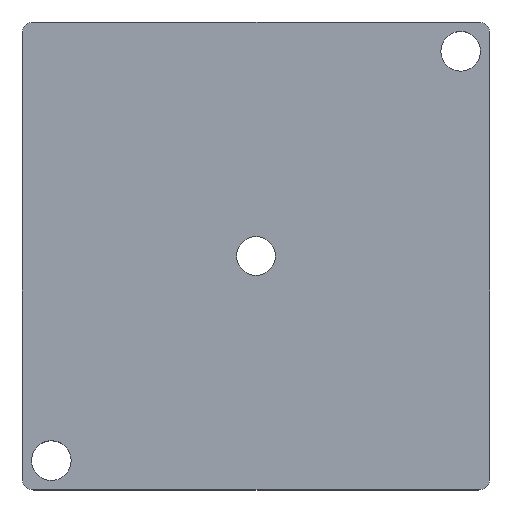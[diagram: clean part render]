
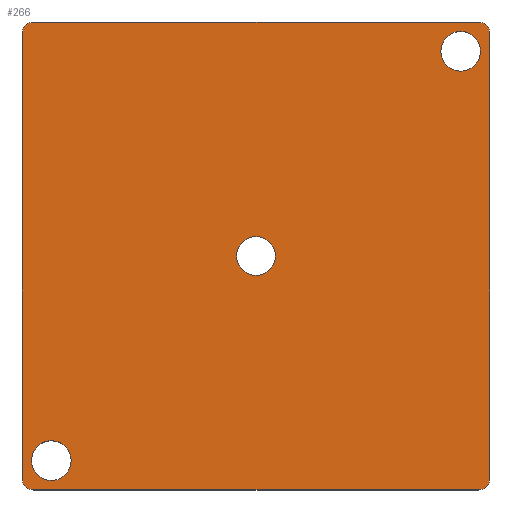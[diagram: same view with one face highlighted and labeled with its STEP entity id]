
A CAD part, top view. The second image highlights one B-rep face of the part: STEP entity #266.
In plain terms, the highlighted planar face has unit normal (0, 0, 1).
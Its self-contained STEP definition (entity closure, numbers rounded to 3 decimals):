
#18=FACE_BOUND('',#56,.T.);
#19=FACE_BOUND('',#57,.T.);
#20=FACE_BOUND('',#58,.T.);
#26=PLANE('',#316);
#39=FACE_OUTER_BOUND('',#55,.T.);
#55=EDGE_LOOP('',(#233,#234,#235,#236,#237,#238,#239,#240));
#56=EDGE_LOOP('',(#241,#242));
#57=EDGE_LOOP('',(#243,#244));
#58=EDGE_LOOP('',(#245,#246));
#65=LINE('',#430,#84);
#71=LINE('',#445,#90);
#76=LINE('',#469,#95);
#77=LINE('',#471,#96);
#84=VECTOR('',#347,10.);
#90=VECTOR('',#363,10.);
#95=VECTOR('',#392,10.);
#96=VECTOR('',#395,10.);
#97=CIRCLE('',#288,2.);
#105=CIRCLE('',#299,2.);
#106=CIRCLE('',#301,2.);
#107=CIRCLE('',#304,2.);
#108=CIRCLE('',#306,3.324);
#109=CIRCLE('',#307,3.324);
#110=CIRCLE('',#309,3.4);
#111=CIRCLE('',#310,3.4);
#112=CIRCLE('',#312,3.4);
#113=CIRCLE('',#313,3.4);
#114=VERTEX_POINT('',#400);
#115=VERTEX_POINT('',#401);
#127=VERTEX_POINT('',#429);
#128=VERTEX_POINT('',#433);
#129=VERTEX_POINT('',#437);
#130=VERTEX_POINT('',#438);
#131=VERTEX_POINT('',#443);
#132=VERTEX_POINT('',#447);
#133=VERTEX_POINT('',#451);
#134=VERTEX_POINT('',#452);
#135=VERTEX_POINT('',#457);
#136=VERTEX_POINT('',#458);
#137=VERTEX_POINT('',#463);
#138=VERTEX_POINT('',#464);
#139=EDGE_CURVE('',#114,#115,#97,.T.);
#153=EDGE_CURVE('',#115,#127,#65,.T.);
#155=EDGE_CURVE('',#127,#128,#105,.T.);
#157=EDGE_CURVE('',#129,#130,#106,.T.);
#161=EDGE_CURVE('',#131,#129,#71,.T.);
#162=EDGE_CURVE('',#132,#131,#107,.T.);
#164=EDGE_CURVE('',#133,#134,#108,.T.);
#165=EDGE_CURVE('',#134,#133,#109,.T.);
#167=EDGE_CURVE('',#135,#136,#110,.T.);
#168=EDGE_CURVE('',#136,#135,#111,.T.);
#170=EDGE_CURVE('',#137,#138,#112,.T.);
#171=EDGE_CURVE('',#138,#137,#113,.T.);
#173=EDGE_CURVE('',#130,#114,#76,.T.);
#174=EDGE_CURVE('',#128,#132,#77,.T.);
#233=ORIENTED_EDGE('',*,*,#139,.F.);
#234=ORIENTED_EDGE('',*,*,#173,.F.);
#235=ORIENTED_EDGE('',*,*,#157,.F.);
#236=ORIENTED_EDGE('',*,*,#161,.F.);
#237=ORIENTED_EDGE('',*,*,#162,.F.);
#238=ORIENTED_EDGE('',*,*,#174,.F.);
#239=ORIENTED_EDGE('',*,*,#155,.F.);
#240=ORIENTED_EDGE('',*,*,#153,.F.);
#241=ORIENTED_EDGE('',*,*,#164,.T.);
#242=ORIENTED_EDGE('',*,*,#165,.T.);
#243=ORIENTED_EDGE('',*,*,#167,.T.);
#244=ORIENTED_EDGE('',*,*,#168,.T.);
#245=ORIENTED_EDGE('',*,*,#170,.T.);
#246=ORIENTED_EDGE('',*,*,#171,.T.);
#266=ADVANCED_FACE('',(#39,#18,#19,#20),#26,.T.);
#288=AXIS2_PLACEMENT_3D('',#402,#321,#322);
#299=AXIS2_PLACEMENT_3D('',#434,#351,#352);
#301=AXIS2_PLACEMENT_3D('',#439,#356,#357);
#304=AXIS2_PLACEMENT_3D('',#448,#366,#367);
#306=AXIS2_PLACEMENT_3D('',#453,#371,#372);
#307=AXIS2_PLACEMENT_3D('',#454,#373,#374);
#309=AXIS2_PLACEMENT_3D('',#459,#378,#379);
#310=AXIS2_PLACEMENT_3D('',#460,#380,#381);
#312=AXIS2_PLACEMENT_3D('',#465,#385,#386);
#313=AXIS2_PLACEMENT_3D('',#466,#387,#388);
#316=AXIS2_PLACEMENT_3D('',#472,#396,#397);
#321=DIRECTION('center_axis',(0.,0.,-1.));
#322=DIRECTION('ref_axis',(-0.707,0.707,0.));
#347=DIRECTION('',(1.,0.,0.));
#351=DIRECTION('center_axis',(0.,0.,-1.));
#352=DIRECTION('ref_axis',(0.707,0.707,0.));
#356=DIRECTION('center_axis',(0.,0.,-1.));
#357=DIRECTION('ref_axis',(-0.707,-0.707,0.));
#363=DIRECTION('',(-1.,0.,0.));
#366=DIRECTION('center_axis',(0.,0.,-1.));
#367=DIRECTION('ref_axis',(0.707,-0.707,0.));
#371=DIRECTION('center_axis',(0.,0.,-1.));
#372=DIRECTION('ref_axis',(1.,0.,0.));
#373=DIRECTION('center_axis',(0.,0.,-1.));
#374=DIRECTION('ref_axis',(1.,0.,0.));
#378=DIRECTION('center_axis',(0.,0.,-1.));
#379=DIRECTION('ref_axis',(1.,0.,0.));
#380=DIRECTION('center_axis',(0.,0.,-1.));
#381=DIRECTION('ref_axis',(1.,0.,0.));
#385=DIRECTION('center_axis',(0.,0.,-1.));
#386=DIRECTION('ref_axis',(1.,0.,0.));
#387=DIRECTION('center_axis',(0.,0.,-1.));
#388=DIRECTION('ref_axis',(1.,0.,0.));
#392=DIRECTION('',(0.,1.,0.));
#395=DIRECTION('',(0.,-1.,0.));
#396=DIRECTION('center_axis',(0.,0.,1.));
#397=DIRECTION('ref_axis',(1.,0.,0.));
#400=CARTESIAN_POINT('',(-10.12,16.114,8.));
#401=CARTESIAN_POINT('',(-8.12,18.114,8.));
#402=CARTESIAN_POINT('Origin',(-8.12,16.114,8.));
#429=CARTESIAN_POINT('',(67.88,18.114,8.));
#430=CARTESIAN_POINT('',(69.88,18.114,8.));
#433=CARTESIAN_POINT('',(69.88,16.114,8.));
#434=CARTESIAN_POINT('Origin',(67.88,16.114,8.));
#437=CARTESIAN_POINT('',(-8.12,-61.886,8.));
#438=CARTESIAN_POINT('',(-10.12,-59.886,8.));
#439=CARTESIAN_POINT('Origin',(-8.12,-59.886,8.));
#443=CARTESIAN_POINT('',(67.88,-61.886,8.));
#445=CARTESIAN_POINT('',(-10.12,-61.886,8.));
#447=CARTESIAN_POINT('',(69.88,-59.886,8.));
#448=CARTESIAN_POINT('Origin',(67.88,-59.886,8.));
#451=CARTESIAN_POINT('',(33.204,-21.886,8.));
#452=CARTESIAN_POINT('',(26.557,-21.886,8.));
#453=CARTESIAN_POINT('Origin',(29.88,-21.886,8.));
#454=CARTESIAN_POINT('Origin',(29.88,-21.886,8.));
#457=CARTESIAN_POINT('',(-1.72,-56.886,8.));
#458=CARTESIAN_POINT('',(-8.52,-56.886,8.));
#459=CARTESIAN_POINT('Origin',(-5.12,-56.886,8.));
#460=CARTESIAN_POINT('Origin',(-5.12,-56.886,8.));
#463=CARTESIAN_POINT('',(68.28,13.114,8.));
#464=CARTESIAN_POINT('',(61.48,13.114,8.));
#465=CARTESIAN_POINT('Origin',(64.88,13.114,8.));
#466=CARTESIAN_POINT('Origin',(64.88,13.114,8.));
#469=CARTESIAN_POINT('',(-10.12,18.114,8.));
#471=CARTESIAN_POINT('',(69.88,-61.886,8.));
#472=CARTESIAN_POINT('Origin',(29.88,-21.886,8.));
